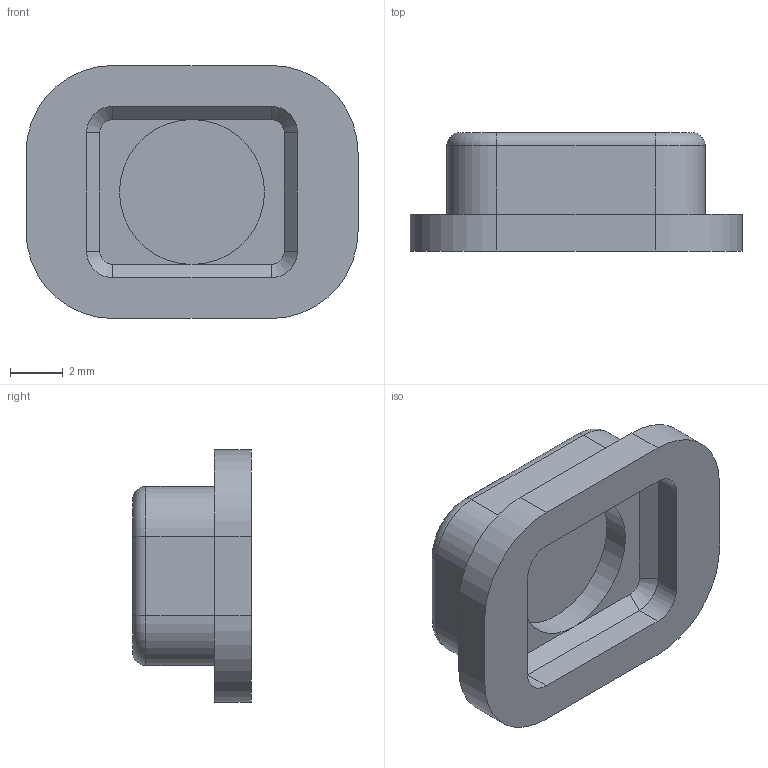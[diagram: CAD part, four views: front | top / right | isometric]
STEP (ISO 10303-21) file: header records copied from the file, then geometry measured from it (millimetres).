
FILE_DESCRIPTION(/* description */ ('STEP AP242','CAx-IF Rec.Pracs.---Representation and Presentation of Product Manufacturing Information (PMI)---4.0---2014-10-13','CAx-IF Rec.Pracs.---3D Tessellated Geometry---0.4---2014-09-14','2;1'),/* implementation_level */ '2;1');
FILE_NAME(/* name */ '687e6980f344454910d4761b',/* time_stamp */ '2025-07-21T16:23:28Z',/* author */ (''),/* organization */ (''),/* preprocessor_version */ 'ST-DEVELOPER v20',/* originating_system */ 'ONSHAPE BY PTC INC, 1.201',/* authorisation */ ' ');
FILE_SCHEMA (('AP242_MANAGED_MODEL_BASED_3D_ENGINEERING_MIM_LF { 1 0 10303 442 1 1 4 }'));
Length unit declared in the file: metre
Products named in the file (1): Screen Up Button
Bounding box: 12.6 x 4.5 x 9.6 mm (x, y, z)
Volume: 253 mm3; surface area: 417.2 mm2
Topology: 1 solids, 1 shells, 60 faces, 146 edges, 91 vertices
Faces by surface type: plane 30, cylinder 22, torus 4, cone 4
Full cylindrical faces by diameter (mm): 5.5 x1
Entity records: 1768 total; most frequent: DIRECTION 320, CARTESIAN_POINT 297, ORIENTED_EDGE 290, EDGE_CURVE 145, AXIS2_PLACEMENT_3D 114, LINE 92, VECTOR 92, VERTEX_POINT 91
